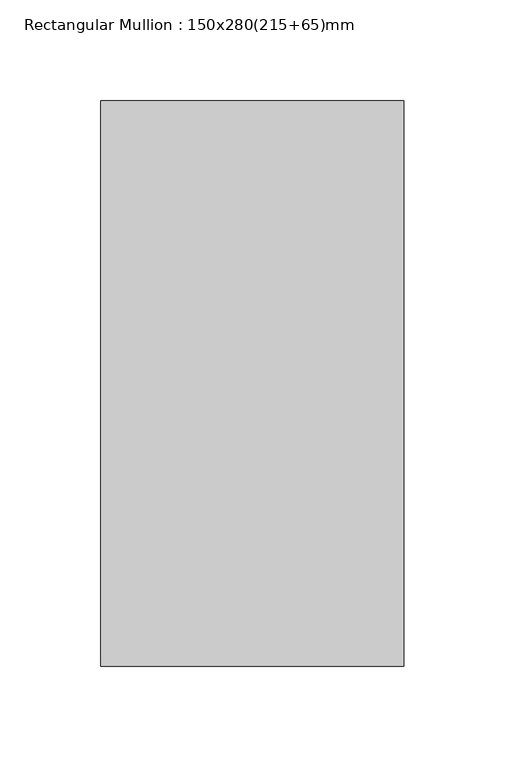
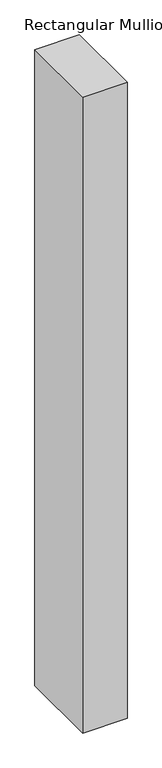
"""IFC4 building model written with IfcOpenShell, lengths in millimetres: member geometry, Rectangular Mullion : 150x280(215+65)mm."""

import ifcopenshell
import ifcopenshell.guid

model = None  # the IFC model being written
_history = None  # IfcOwnerHistory: only IFC2X3 demands one
_inside = {}  # id of a spatial element -> (the spatial element, [elements in it])
_under = {}  # id of a project, library or spatial element -> (it, [spatial elements below it])
_declared = {}  # id of a project -> (the project, [libraries it declares])
_typed = {}  # id of a type object -> (the type object, [elements of that type])
_made_of = {}  # id of a material, layer set ... -> (it, [elements and type objects made of it])


def new_model(schema):
    """Start an empty IFC model of exactly this schema.

    Asked for "IFC4X3", IfcOpenShell would pick the latest addendum, in which some entities
    have other attributes; the version numbers below select the first issue.
    IFC2X3 requires an IfcOwnerHistory on every rooted entity: one is made here for all.
    """
    global model, _history
    if schema == "IFC4X3":
        model = ifcopenshell.file(schema_version=(4, 3, 0, 0))
    else:
        model = ifcopenshell.file(schema=schema)
    _inside.clear()
    _under.clear()
    _declared.clear()
    _typed.clear()
    _made_of.clear()
    _history = None
    if model.schema == "IFC2X3":
        org = make("IfcOrganization", Name="unknown")
        user = make(
            "IfcPersonAndOrganization",
            ThePerson=make("IfcPerson", FamilyName="unknown"),
            TheOrganization=org,
        )
        app = make(
            "IfcApplication",
            ApplicationDeveloper=org,
            Version="unknown",
            ApplicationFullName="unknown",
            ApplicationIdentifier="unknown",
        )
        _history = make(
            "IfcOwnerHistory",
            OwningUser=user,
            OwningApplication=app,
            ChangeAction="ADDED",
            CreationDate=0,
        )
    return model


def make(cls, **values):
    """One entity of the class cls with the attributes given. An attribute that is None is left unset."""
    return model.create_entity(
        cls, **{name: value for name, value in values.items() if value is not None}
    )


def rooted(cls, **values):
    """An entity with a GlobalId (a new one), such as an element, a storey or a relation."""
    return make(cls, GlobalId=ifcopenshell.guid.new(), OwnerHistory=_history, **values)


def si_unit(unit_type, name, prefix=None):
    """IfcSIUnit, for example si_unit("LENGTHUNIT", "METRE", prefix="MILLI")."""
    return make("IfcSIUnit", UnitType=unit_type, Prefix=prefix, Name=name)


def assignment(units):
    """IfcUnitAssignment: the units of a project."""
    return None if units is None else make("IfcUnitAssignment", Units=units)


def point(xyz):
    """IfcCartesianPoint."""
    return None if xyz is None else make("IfcCartesianPoint", Coordinates=xyz)


def direction(xyz):
    """IfcDirection."""
    return None if xyz is None else make("IfcDirection", DirectionRatios=xyz)


def frame(location, z_axis=None, x_axis=None):
    """IfcAxis2Placement3D, a coordinate frame: its origin and axes. An axis left out is left unset."""
    return make(
        "IfcAxis2Placement3D",
        Location=point(location),
        Axis=direction(z_axis),
        RefDirection=direction(x_axis),
    )


def origin():
    """The frame at (0, 0, 0) with its axes left unset."""
    return frame((0.0, 0.0, 0.0))


def place(relative_to, where):
    """IfcLocalPlacement: puts the frame where relative to a parent placement (None: the world)."""
    return make(
        "IfcLocalPlacement", PlacementRelTo=relative_to, RelativePlacement=where
    )


def context(
    kind, dimensions, precision=None, world=None, true_north=None, identifier=None
):
    """IfcGeometricRepresentationContext, for example the 3D "Model" context."""
    return make(
        "IfcGeometricRepresentationContext",
        ContextIdentifier=identifier,
        ContextType=kind,
        CoordinateSpaceDimension=dimensions,
        Precision=precision,
        WorldCoordinateSystem=world,
        TrueNorth=true_north,
    )


def project(units=None, contexts=None):
    """IfcProject with its units and contexts."""
    return rooted(
        "IfcProject",
        Name="project",
        RepresentationContexts=contexts,
        UnitsInContext=assignment(units),
    )


def spatial(cls, under=None, at=None, **own):
    """A site, building, storey or space (cls), placed at a placement, below another one or the project."""
    s = rooted(cls, ObjectPlacement=at, **own)
    if under is not None:
        _under.setdefault(under.id(), (under, []))[1].append(s)
    return s


def polyline(points):
    """IfcPolyline through the points."""
    return make("IfcPolyline", Points=[point(p) for p in points])


def outline(outer, holes=None, kind="AREA"):
    """IfcArbitraryClosedProfileDef: a profile drawn as a closed curve; with holes, ...WithVoids."""
    if holes is None:
        return make("IfcArbitraryClosedProfileDef", ProfileType=kind, OuterCurve=outer)
    return make(
        "IfcArbitraryProfileDefWithVoids",
        ProfileType=kind,
        OuterCurve=outer,
        InnerCurves=holes,
    )


def extrude(swept, where, along, depth):
    """IfcExtrudedAreaSolid: the profile swept, set in the frame where, extruded along a direction by depth."""
    return make(
        "IfcExtrudedAreaSolid",
        SweptArea=swept,
        Position=where,
        ExtrudedDirection=direction(along),
        Depth=depth,
    )


def shape(context_of_items, identifier, shape_type, items):
    """IfcShapeRepresentation: the items that make up one representation, for example the "Body"."""
    return make(
        "IfcShapeRepresentation",
        ContextOfItems=context_of_items,
        RepresentationIdentifier=identifier,
        RepresentationType=shape_type,
        Items=items,
    )


def source(mapping_origin, context_of_items, identifier, shape_type, items):
    """IfcRepresentationMap: a shape defined once, which mapped items show again and again."""
    return make(
        "IfcRepresentationMap",
        MappingOrigin=mapping_origin,
        MappedRepresentation=shape(context_of_items, identifier, shape_type, items),
    )


def transform(
    local_origin,
    x_axis=None,
    y_axis=None,
    z_axis=None,
    scale=None,
    scale2=None,
    scale3=None,
    uniform=True,
):
    """IfcCartesianTransformationOperator3D, or its non-uniform kind. x_axis, y_axis, z_axis: its Axis1, 2, 3."""
    if uniform:
        return make(
            "IfcCartesianTransformationOperator3D",
            Axis1=direction(x_axis),
            Axis2=direction(y_axis),
            LocalOrigin=point(local_origin),
            Scale=scale,
            Axis3=direction(z_axis),
        )
    return make(
        "IfcCartesianTransformationOperator3DnonUniform",
        Axis1=direction(x_axis),
        Axis2=direction(y_axis),
        LocalOrigin=point(local_origin),
        Scale=scale,
        Axis3=direction(z_axis),
        Scale2=scale2,
        Scale3=scale3,
    )


def mapped(mapping_source, mapping_target):
    """IfcMappedItem: shows the shape of a source again, moved by a transform."""
    return make(
        "IfcMappedItem", MappingSource=mapping_source, MappingTarget=mapping_target
    )


def made_of(thing, what):
    """Note that an element or type object is made of a material, layer set ...; save() writes the relation."""
    if what is not None:
        _made_of.setdefault(what.id(), (what, []))[1].append(thing)
    return thing


def element(
    cls,
    number,
    at=None,
    inside=None,
    cuts=None,
    type_object=None,
    material=None,
    context=None,
    identifier="Body",
    shape_type=None,
    held_by="IfcProductDefinitionShape",
    body=None,
    shapes=None,
    **own,
):
    """One element of the class cls, such as IfcWall. Its Tag is "e" and its number.

    at: its placement. inside: the storey or other place that contains it. cuts: it is an
    opening in that element (IfcRelVoidsElement). A single representation is given by context,
    identifier, shape_type and body (its items); several are given by shapes. held_by: the class
    of the entity that holds the representations. save() writes the other relations.
    """
    e = rooted(cls, Tag="e%d" % number, ObjectPlacement=at, **own)
    if body is not None:
        shapes = [shape(context, identifier, shape_type, body)]
    if shapes is not None:
        e.Representation = make(held_by, Representations=shapes)
    if inside is not None:
        _inside.setdefault(inside.id(), (inside, []))[1].append(e)
    if cuts is not None:
        rooted(
            "IfcRelVoidsElement", RelatingBuildingElement=cuts, RelatedOpeningElement=e
        )
    if type_object is not None:
        _typed.setdefault(type_object.id(), (type_object, []))[1].append(e)
    return made_of(e, material)


def aggregate(whole, parts):
    """IfcRelAggregates: a whole, such as a stair, and the parts it consists of."""
    return rooted("IfcRelAggregates", RelatingObject=whole, RelatedObjects=parts)


def save(model, path):
    """Write the relations noted so far, then the file.

    IfcRelAggregates (storeys below a building ...), IfcRelContainedInSpatialStructure (elements
    in a storey), IfcRelDefinesByType, IfcRelAssociatesMaterial and IfcRelDeclares: one each for
    every whole, place, type object, material and project.
    """
    for whole, parts in _under.values():
        aggregate(whole, parts)
    for where, things in _inside.values():
        rooted(
            "IfcRelContainedInSpatialStructure",
            RelatedElements=things,
            RelatingStructure=where,
        )
    for kind, things in _typed.values():
        rooted("IfcRelDefinesByType", RelatedObjects=things, RelatingType=kind)
    for what, things in _made_of.values():
        rooted("IfcRelAssociatesMaterial", RelatedObjects=things, RelatingMaterial=what)
    for by, libraries in _declared.values():
        rooted("IfcRelDeclares", RelatingContext=by, RelatedDefinitions=libraries)
    model.write(path)


def rectangular_mullion_150x280_215_65_mm_c94d3e20(model_context):
    return source(origin(), model_context, "Body", "SweptSolid", [
        extrude(outline(polyline([(75.0, 215.0), (75.0, -65.0), (-75.0, -65.0), (-75.0, 215.0), (75.0, 215.0)])), frame((0.0, 0.0, -2275.0), z_axis=(0.0, 0.0, 1.0), x_axis=(1.0, 0.0, 0.0)), (0.0, 0.0, 1.0), 2275.0),
    ])


if __name__ == "__main__":
    model = new_model("IFC4")
    model_context = context("Model", 3, world=origin())
    ifc_project = project(units=[si_unit("LENGTHUNIT", "METRE", prefix="MILLI")], contexts=[model_context])
    site = spatial("IfcSite", under=ifc_project)
    building = spatial("IfcBuilding", under=site)
    placement = place(None, origin())
    rectangular_mullion_150x280_215_65_mm_shape = rectangular_mullion_150x280_215_65_mm_c94d3e20(model_context)
    element("IfcMember", 1, ObjectType="Rectangular Mullion : 150x280(215+65)mm", at=placement, inside=building, context=model_context, shape_type="MappedRepresentation", body=[
        mapped(rectangular_mullion_150x280_215_65_mm_shape, transform((0.0, 0.0, 0.0), x_axis=(1.0, 0.0, 0.0), y_axis=(0.0, 1.0, 0.0), z_axis=(0.0, 0.0, 1.0))),
    ])
    save(model, "model.ifc")
